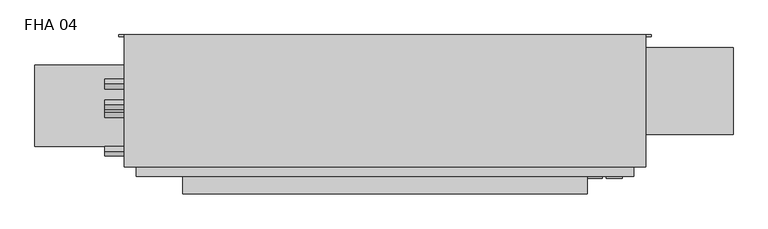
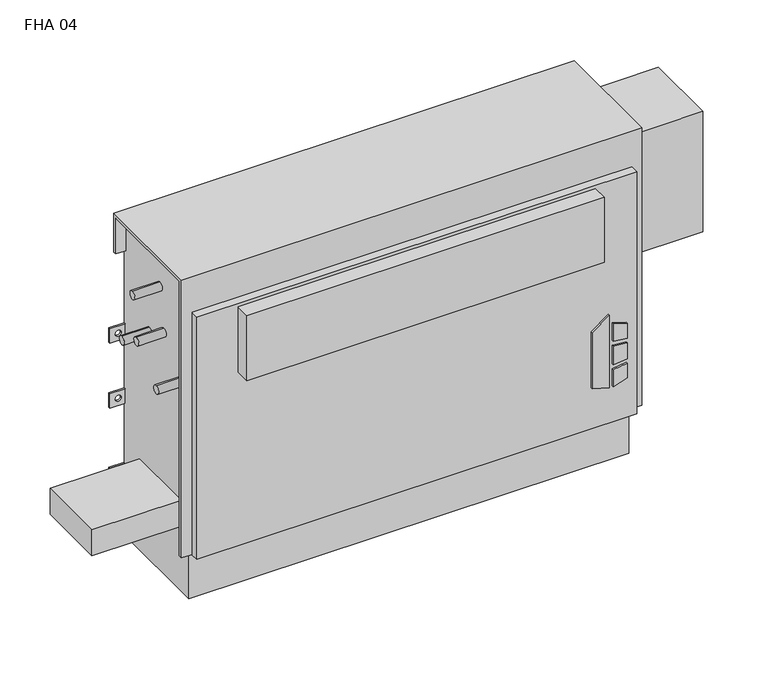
"""IFC4 building model written with IfcOpenShell, lengths in millimetres: proxy geometry, Vertical_Fan_Coil_Unit_-_FHA_-_IEC_-_4-Pipe_FS-FR_LH_2022 : FHA 04."""

from ifc_helpers import new_model, si_unit, point, frame, frame_2d, origin, place, context, project, spatial, polyline, circle_curve, trimmed, segment, composite_curve, outline, extrude, source, transform, mapped, element, save
from ifc_brep_helpers import plane_surface, revolved_surface, advanced_brep


def fha_04_1860a677(model_context):
    return source(origin(), model_context, "Body", "SolidModel", [
        extrude(outline(polyline([(172.5771459, 474.7368862), (162.6290756, 506.9102728), (304.8, 506.9102728), (281.7779939, 474.7368862), (172.5771459, 474.7368862)])), frame((0.0, 9.525, 0.0), z_axis=(0.0, 1.0, 0.0), x_axis=(0.0, 0.0, 1.0)), (0.0, 0.0, 1.0), 3.175),
        extrude(outline(polyline([(251.5764313, 513.6686058), (248.3740387, 539.75), (277.6028798, 539.75), (285.6672948, 513.6686058), (251.5764313, 513.6686058)])), frame((0.0, 9.525, 0.0), z_axis=(0.0, 1.0, 0.0), x_axis=(0.0, 0.0, 1.0)), (0.0, 0.0, 1.0), 3.175),
        extrude(outline(polyline([(199.7129044, 539.75), (196.0474034, 513.6686058), (162.6290756, 513.6686058), (171.2633128, 539.75), (199.7129044, 539.75)])), frame((0.0, 9.525, 0.0), z_axis=(0.0, 1.0, 0.0), x_axis=(0.0, 0.0, 1.0)), (0.0, 0.0, 1.0), 3.175),
        extrude(outline(polyline([(239.0280658, 539.75), (241.3098921, 513.6686058), (205.3723436, 513.6686058), (208.1136086, 539.75), (239.0280658, 539.75)])), frame((0.0, 9.525, 0.0), z_axis=(0.0, 1.0, 0.0), x_axis=(0.0, 0.0, 1.0)), (0.0, 0.0, 1.0), 3.175),
        extrude(outline(composite_curve([segment(trimmed(circle_curve(frame_2d((-317.5, 128.5875)), 9.525), [point((-327.025, 128.5875))], [point((-307.975, 128.5875))], False, "CARTESIAN"), True, "CONTINUOUS"), segment(trimmed(circle_curve(frame_2d((-317.5, 128.5875)), 9.525), [point((-307.975, 128.5875))], [point((-327.025, 128.5875))], False, "CARTESIAN"), True, "CONTINUOUS")], self_intersect=False)), frame((0.0, 0.0, 101.6), z_axis=(0.0, 0.0, 1.0), x_axis=(1.0, 0.0, 0.0)), (0.0, 0.0, 1.0), 25.4),
        extrude(outline(polyline([(-419.1, 61.9125), (-419.1, 195.2625), (-254.0, 195.2625), (-254.0, 61.9125), (-419.1, 61.9125)])), frame((0.0, 0.0, 127.0), z_axis=(0.0, 0.0, 1.0), x_axis=(1.0, 0.0, 0.0)), (0.0, 0.0, 1.0), 50.8),
        extrude(outline(polyline([(482.6, -15.875), (-177.8, -15.875), (-177.8, 12.7), (482.6, 12.7), (482.6, -15.875)])), frame((0.0, 0.0, 431.8), z_axis=(0.0, 0.0, 1.0), x_axis=(1.0, 0.0, 0.0)), (0.0, 0.0, 1.0), 127.0),
        extrude(outline(composite_curve([segment(trimmed(circle_curve(frame_2d((117.475, 472.44)), 7.9375), [point((117.475, 480.3775))], [point((117.475, 464.5025))], False, "CARTESIAN"), True, "CONTINUOUS"), segment(trimmed(circle_curve(frame_2d((117.475, 472.44)), 7.9375), [point((117.475, 464.5025))], [point((117.475, 480.3775))], False, "CARTESIAN"), True, "CONTINUOUS")], self_intersect=False)), frame((-304.8, 0.0, 0.0), z_axis=(1.0, 0.0, 0.0), x_axis=(0.0, 1.0, 0.0)), (0.0, 0.0, 1.0), 50.8),
        extrude(outline(composite_curve([segment(trimmed(circle_curve(frame_2d((164.0586, 445.897)), 7.9375), [point((164.0586, 453.8345))], [point((164.0586, 437.9595))], False, "CARTESIAN"), True, "CONTINUOUS"), segment(trimmed(circle_curve(frame_2d((164.0586, 445.897)), 7.9375), [point((164.0586, 437.9595))], [point((164.0586, 453.8345))], False, "CARTESIAN"), True, "CONTINUOUS")], self_intersect=False)), frame((-304.8, 0.0, 0.0), z_axis=(1.0, 0.0, 0.0), x_axis=(0.0, 1.0, 0.0)), (0.0, 0.0, 1.0), 50.8),
        extrude(outline(composite_curve([segment(trimmed(circle_curve(frame_2d((130.175, 554.99)), 7.9502), [point((130.175, 562.9402))], [point((130.175, 547.0398))], False, "CARTESIAN"), True, "CONTINUOUS"), segment(trimmed(circle_curve(frame_2d((130.175, 554.99)), 7.9502), [point((130.175, 547.0398))], [point((130.175, 562.9402))], False, "CARTESIAN"), True, "CONTINUOUS")], self_intersect=False)), frame((-304.8, 0.0, 0.0), z_axis=(1.0, 0.0, 0.0), x_axis=(0.0, 1.0, 0.0)), (0.0, 0.0, 1.0), 50.8),
        extrude(outline(composite_curve([segment(trimmed(circle_curve(frame_2d((53.975, 416.56)), 7.9502), [point((53.975, 424.5102))], [point((53.975, 408.6098))], False, "CARTESIAN"), True, "CONTINUOUS"), segment(trimmed(circle_curve(frame_2d((53.975, 416.56)), 7.9502), [point((53.975, 408.6098))], [point((53.975, 424.5102))], False, "CARTESIAN"), True, "CONTINUOUS")], self_intersect=False)), frame((-304.8, 0.0, 0.0), z_axis=(1.0, 0.0, 0.0), x_axis=(0.0, 1.0, 0.0)), (0.0, 0.0, 1.0), 50.8),
        extrude(outline(polyline([(720.725, 223.266), (720.725, 81.534), (558.8, 81.534), (558.8, 223.266), (720.725, 223.266)])), frame((0.0, 0.0, 349.25), z_axis=(0.0, 0.0, 1.0), x_axis=(1.0, 0.0, 0.0)), (0.0, 0.0, 1.0), 234.95),
        advanced_brep(
        [(577.85, 244.475, 635.0), (-273.05, 244.475, 635.0), (-273.05, 28.575, 635.0), (577.85, 28.575, 635.0), (-254.0, 244.475, 0.0), (558.8, 244.475, 0.0), (558.8, 38.1, 0.0), (-254.0, 38.1, 0.0), (577.85, 244.475, 558.8), (558.8, 244.475, 558.8), (558.8, 244.475, 414.3375), (587.375, 244.475, 414.3375), (587.375, 244.475, 385.7625), (558.8, 244.475, 385.7625), (558.8, 244.475, 287.3375), (587.375, 244.475, 287.3375), (587.375, 244.475, 258.7625), (558.8, 244.475, 258.7625), (558.8, 244.475, 141.2875), (587.375, 244.475, 141.2875), (587.375, 244.475, 112.7125), (558.8, 244.475, 112.7125), (-254.0, 244.475, 112.7125), (-282.575, 244.475, 112.7125), (-282.575, 244.475, 141.2875), (-254.0, 244.475, 141.2875), (-254.0, 244.475, 258.7625), (-282.575, 244.475, 258.7625), (-282.575, 244.475, 287.3375), (-254.0, 244.475, 287.3375), (-254.0, 244.475, 385.7625), (-282.575, 244.475, 385.7625), (-282.575, 244.475, 414.3375), (-254.0, 244.475, 414.3375), (-254.0, 244.475, 558.8), (-273.05, 244.475, 558.8), (577.0626, 244.475, 127.0), (565.9374, 244.475, 127.0), (-261.1374, 244.475, 127.0), (-272.2626, 244.475, 127.0), (577.0626, 244.475, 273.05), (565.9374, 244.475, 273.05), (-261.1374, 244.475, 273.05), (-272.2626, 244.475, 273.05), (577.0626, 244.475, 400.05), (565.9374, 244.475, 400.05), (-261.1374, 244.475, 400.05), (-272.2626, 244.475, 400.05), (-273.05, 238.125, 558.8), (-273.05, 238.125, 628.65), (-273.05, 34.925, 628.65), (-273.05, 34.925, 92.075), (-273.05, 28.575, 92.075), (558.8, 12.7, 565.15), (-254.0, 12.7, 565.15), (-254.0, 12.7, 92.075), (558.8, 12.7, 92.075), (577.85, 28.575, 92.075), (577.85, 34.925, 92.075), (577.85, 34.925, 628.65), (577.85, 238.125, 628.65), (577.85, 238.125, 558.8), (-254.0, 28.575, 92.075), (-254.0, 28.575, 565.15), (558.8, 28.575, 565.15), (558.8, 28.575, 92.075), (-254.0, 34.925, 92.075), (-254.0, 38.1, 92.075), (558.8, 38.1, 92.075), (558.8, 34.925, 92.075), (558.8, 241.3, 112.7125), (558.8, 241.3, 141.2875), (558.8, 241.3, 258.7625), (558.8, 241.3, 287.3375), (558.8, 241.3, 385.7625), (558.8, 241.3, 414.3375), (558.8, 238.125, 558.8), (558.8, 238.125, 628.65), (558.8, 34.925, 628.65), (-254.0, 34.925, 628.65), (-254.0, 238.125, 628.65), (-254.0, 238.125, 558.8), (-254.0, 241.3, 414.3375), (-254.0, 241.3, 385.7625), (-254.0, 241.3, 287.3375), (-254.0, 241.3, 258.7625), (-254.0, 241.3, 141.2875), (-254.0, 241.3, 112.7125), (587.375, 241.3, 112.7125), (587.375, 241.3, 141.2875), (565.9374, 241.3, 127.0), (577.0626, 241.3, 127.0), (587.375, 241.3, 258.7625), (587.375, 241.3, 287.3375), (565.9374, 241.3, 273.05), (577.0626, 241.3, 273.05), (587.375, 241.3, 385.7625), (587.375, 241.3, 414.3375), (565.9374, 241.3, 400.05), (577.0626, 241.3, 400.05), (-282.575, 241.3, 141.2875), (-282.575, 241.3, 112.7125), (-272.2626, 241.3, 127.0), (-261.1374, 241.3, 127.0), (-282.575, 241.3, 287.3375), (-282.575, 241.3, 258.7625), (-272.2626, 241.3, 273.05), (-261.1374, 241.3, 273.05), (-282.575, 241.3, 414.3375), (-282.575, 241.3, 385.7625), (-272.2626, 241.3, 400.05), (-261.1374, 241.3, 400.05)],
        [
            (0, 1),
            (1, 2),
            (2, 3),
            (3, 0),
            (4, 5),
            (5, 6),
            (6, 7),
            (7, 4),
            (0, 8),
            (8, 9),
            (9, 10),
            (10, 11),
            (11, 12),
            (12, 13),
            (13, 14),
            (14, 15),
            (15, 16),
            (16, 17),
            (17, 18),
            (18, 19),
            (19, 20),
            (20, 21),
            (21, 5),
            (4, 22),
            (22, 23),
            (23, 24),
            (24, 25),
            (25, 26),
            (26, 27),
            (27, 28),
            (28, 29),
            (29, 30),
            (30, 31),
            (31, 32),
            (32, 33),
            (33, 34),
            (34, 35),
            (35, 1),
            (36, 37, circle_curve(frame((571.5, 244.475, 127.0), z_axis=(0.0, -1.0, 0.0), x_axis=(-1.0, 0.0, 0.0)), 5.5626)),
            (37, 36, circle_curve(frame((571.5, 244.475, 127.0), z_axis=(0.0, -1.0, 0.0), x_axis=(-1.0, 0.0, 0.0)), 5.5626)),
            (38, 39, circle_curve(frame((-266.7, 244.475, 127.0), z_axis=(0.0, -1.0, 0.0), x_axis=(-1.0, 0.0, 0.0)), 5.5626)),
            (39, 38, circle_curve(frame((-266.7, 244.475, 127.0), z_axis=(0.0, -1.0, 0.0), x_axis=(-1.0, 0.0, 0.0)), 5.5626)),
            (40, 41, circle_curve(frame((571.5, 244.475, 273.05), z_axis=(0.0, -1.0, 0.0), x_axis=(-1.0, 0.0, 0.0)), 5.5626)),
            (41, 40, circle_curve(frame((571.5, 244.475, 273.05), z_axis=(0.0, -1.0, 0.0), x_axis=(-1.0, 0.0, 0.0)), 5.5626)),
            (42, 43, circle_curve(frame((-266.7, 244.475, 273.05), z_axis=(0.0, -1.0, 0.0), x_axis=(-1.0, 0.0, 0.0)), 5.5626)),
            (43, 42, circle_curve(frame((-266.7, 244.475, 273.05), z_axis=(0.0, -1.0, 0.0), x_axis=(-1.0, 0.0, 0.0)), 5.5626)),
            (44, 45, circle_curve(frame((571.5, 244.475, 400.05), z_axis=(0.0, -1.0, 0.0), x_axis=(-1.0, 0.0, 0.0)), 5.5626)),
            (45, 44, circle_curve(frame((571.5, 244.475, 400.05), z_axis=(0.0, -1.0, 0.0), x_axis=(-1.0, 0.0, 0.0)), 5.5626)),
            (46, 47, circle_curve(frame((-266.7, 244.475, 400.05), z_axis=(0.0, -1.0, 0.0), x_axis=(-1.0, 0.0, 0.0)), 5.5626)),
            (47, 46, circle_curve(frame((-266.7, 244.475, 400.05), z_axis=(0.0, -1.0, 0.0), x_axis=(-1.0, 0.0, 0.0)), 5.5626)),
            (35, 48),
            (48, 49),
            (49, 50),
            (50, 51),
            (51, 52),
            (52, 2),
            (53, 54),
            (54, 55),
            (55, 56),
            (56, 53),
            (3, 57),
            (57, 58),
            (58, 59),
            (59, 60),
            (60, 61),
            (61, 8),
            (52, 62),
            (62, 63),
            (63, 64),
            (64, 65),
            (65, 57),
            (53, 64),
            (63, 54),
            (55, 62),
            (51, 66),
            (66, 67),
            (67, 68),
            (68, 69),
            (69, 58),
            (65, 56),
            (6, 68),
            (67, 7),
            (21, 70),
            (70, 71),
            (71, 18),
            (17, 72),
            (72, 73),
            (73, 14),
            (13, 74),
            (74, 75),
            (75, 10),
            (9, 76),
            (76, 77),
            (77, 78),
            (78, 69),
            (66, 79),
            (79, 80),
            (80, 81),
            (81, 34),
            (33, 82),
            (82, 83),
            (83, 30),
            (29, 84),
            (84, 85),
            (85, 26),
            (25, 86),
            (86, 87),
            (87, 22),
            (76, 61),
            (60, 77),
            (78, 59),
            (50, 79),
            (81, 48),
            (80, 49),
            (70, 88),
            (88, 89),
            (89, 71),
            (90, 91, circle_curve(frame((571.5, 241.3, 127.0), z_axis=(0.0, 1.0, 0.0), x_axis=(-1.0, 0.0, 0.0)), 5.5626)),
            (91, 90, circle_curve(frame((571.5, 241.3, 127.0), z_axis=(0.0, 1.0, 0.0), x_axis=(-1.0, 0.0, 0.0)), 5.5626)),
            (92, 93),
            (93, 73),
            (72, 92),
            (94, 95, circle_curve(frame((571.5, 241.3, 273.05), z_axis=(0.0, 1.0, 0.0), x_axis=(-1.0, 0.0, 0.0)), 5.5626)),
            (95, 94, circle_curve(frame((571.5, 241.3, 273.05), z_axis=(0.0, 1.0, 0.0), x_axis=(-1.0, 0.0, 0.0)), 5.5626)),
            (96, 97),
            (97, 75),
            (74, 96),
            (98, 99, circle_curve(frame((571.5, 241.3, 400.05), z_axis=(0.0, 1.0, 0.0), x_axis=(-1.0, 0.0, 0.0)), 5.5626)),
            (99, 98, circle_curve(frame((571.5, 241.3, 400.05), z_axis=(0.0, 1.0, 0.0), x_axis=(-1.0, 0.0, 0.0)), 5.5626)),
            (100, 101),
            (101, 87),
            (86, 100),
            (102, 103, circle_curve(frame((-266.7, 241.3, 127.0), z_axis=(0.0, 1.0, 0.0), x_axis=(-1.0, 0.0, 0.0)), 5.5626)),
            (103, 102, circle_curve(frame((-266.7, 241.3, 127.0), z_axis=(0.0, 1.0, 0.0), x_axis=(-1.0, 0.0, 0.0)), 5.5626)),
            (84, 104),
            (104, 105),
            (105, 85),
            (106, 107, circle_curve(frame((-266.7, 241.3, 273.05), z_axis=(0.0, 1.0, 0.0), x_axis=(-1.0, 0.0, 0.0)), 5.5626)),
            (107, 106, circle_curve(frame((-266.7, 241.3, 273.05), z_axis=(0.0, 1.0, 0.0), x_axis=(-1.0, 0.0, 0.0)), 5.5626)),
            (108, 109),
            (109, 83),
            (82, 108),
            (110, 111, circle_curve(frame((-266.7, 241.3, 400.05), z_axis=(0.0, 1.0, 0.0), x_axis=(-1.0, 0.0, 0.0)), 5.5626)),
            (111, 110, circle_curve(frame((-266.7, 241.3, 400.05), z_axis=(0.0, 1.0, 0.0), x_axis=(-1.0, 0.0, 0.0)), 5.5626)),
            (89, 19),
            (88, 20),
            (16, 92),
            (93, 15),
            (12, 96),
            (97, 11),
            (24, 100),
            (101, 23),
            (105, 27),
            (104, 28),
            (32, 108),
            (109, 31),
            (90, 37),
            (36, 91),
            (102, 39),
            (38, 103),
            (94, 41),
            (40, 95),
            (106, 43),
            (42, 107),
            (98, 45),
            (44, 99),
            (110, 47),
            (46, 111),
        ],
        [
            plane_surface(frame((-273.05, 244.475, 635.0), z_axis=(0.0, 0.0, 1.0), x_axis=(-1.0, 0.0, 0.0))),
            plane_surface(frame((-273.05, 244.475, 0.0), z_axis=(0.0, 0.0, -1.0), x_axis=(1.0, 0.0, 0.0))),
            plane_surface(frame((577.85, 244.475, 635.0), z_axis=(0.0, 1.0, 0.0), x_axis=(0.0, 0.0, -1.0))),
            plane_surface(frame((-273.05, 244.475, 635.0), z_axis=(-1.0, 0.0, 0.0), x_axis=(0.0, 0.0, -1.0))),
            plane_surface(frame((-273.05, 12.7, 635.0), z_axis=(0.0, -1.0, 0.0), x_axis=(0.0, 0.0, -1.0))),
            plane_surface(frame((577.85, 12.7, 635.0), z_axis=(1.0, 0.0, 0.0), x_axis=(0.0, 0.0, -1.0))),
            plane_surface(frame((-400.05, 28.575, 635.0), z_axis=(0.0, -1.0, 0.0), x_axis=(1.0, 0.0, 0.0))),
            plane_surface(frame((-400.05, 28.575, 565.15), z_axis=(0.0, 0.0, 1.0), x_axis=(1.0, 0.0, 0.0))),
            plane_surface(frame((-273.05, 12.7, 92.075), z_axis=(0.0, 0.0, -1.0), x_axis=(1.0, 0.0, 0.0))),
            plane_surface(frame((-273.05, 38.1, 92.075), z_axis=(0.0, -1.0, 0.0), x_axis=(1.0, 0.0, 0.0))),
            plane_surface(frame((558.8, 28.575, 92.075), z_axis=(1.0, 0.0, 0.0), x_axis=(0.0, -1.0, 0.0))),
            plane_surface(frame((-254.0, 28.575, 565.15), z_axis=(-1.0, 0.0, 0.0), x_axis=(0.0, -1.0, 0.0))),
            plane_surface(frame((558.8, 244.475, 0.0), z_axis=(1.0, 0.0, 0.0), x_axis=(0.0, -1.0, 0.0))),
            plane_surface(frame((-254.0, 244.475, 92.075), z_axis=(-1.0, 0.0, 0.0), x_axis=(0.0, -1.0, 0.0))),
            plane_surface(frame((558.8, 238.125, 628.65), z_axis=(0.0, -1.0, 0.0), x_axis=(1.0, 0.0, 0.0))),
            plane_surface(frame((558.8, 238.125, 558.8), z_axis=(0.0, 0.0, -1.0), x_axis=(1.0, 0.0, 0.0))),
            plane_surface(frame((558.8, 34.925, 92.075), z_axis=(0.0, 1.0, 0.0), x_axis=(1.0, 0.0, 0.0))),
            plane_surface(frame((558.8, 34.925, 628.65), z_axis=(0.0, 0.0, -1.0), x_axis=(1.0, 0.0, 0.0))),
            plane_surface(frame((-254.0, 34.925, 628.65), z_axis=(0.0, 1.0, 0.0), x_axis=(-1.0, 0.0, 0.0))),
            plane_surface(frame((-254.0, 244.475, 558.8), z_axis=(0.0, 0.0, -1.0), x_axis=(-1.0, 0.0, 0.0))),
            plane_surface(frame((-254.0, 238.125, 558.8), z_axis=(0.0, -1.0, 0.0), x_axis=(-1.0, 0.0, 0.0))),
            plane_surface(frame((-254.0, 238.125, 628.65), z_axis=(0.0, 0.0, -1.0), x_axis=(-1.0, 0.0, 0.0))),
            plane_surface(frame((587.375, 241.3, 141.2875), z_axis=(0.0, -1.0, 0.0), x_axis=(-1.0, 0.0, 0.0))),
            plane_surface(frame((558.8, 244.475, 141.2875), z_axis=(0.0, 0.0, 1.0), x_axis=(0.0, -1.0, 0.0))),
            plane_surface(frame((587.375, 244.475, 141.2875), z_axis=(1.0, 0.0, 0.0), x_axis=(0.0, -1.0, 0.0))),
            plane_surface(frame((587.375, 244.475, 112.7125), z_axis=(0.0, 0.0, -1.0), x_axis=(0.0, -1.0, 0.0))),
            plane_surface(frame((587.375, 244.475, 258.7625), z_axis=(0.0, 0.0, -1.0), x_axis=(0.0, -1.0, 0.0))),
            plane_surface(frame((558.8, 244.475, 287.3375), z_axis=(0.0, 0.0, 1.0), x_axis=(0.0, -1.0, 0.0))),
            plane_surface(frame((587.375, 244.475, 287.3375), z_axis=(1.0, 0.0, 0.0), x_axis=(0.0, -1.0, 0.0))),
            plane_surface(frame((587.375, 244.475, 385.7625), z_axis=(0.0, 0.0, -1.0), x_axis=(0.0, -1.0, 0.0))),
            plane_surface(frame((558.8, 244.475, 414.3375), z_axis=(0.0, 0.0, 1.0), x_axis=(0.0, -1.0, 0.0))),
            plane_surface(frame((587.375, 244.475, 414.3375), z_axis=(1.0, 0.0, 0.0), x_axis=(0.0, -1.0, 0.0))),
            plane_surface(frame((-282.575, 244.475, 141.2875), z_axis=(0.0, 0.0, 1.0), x_axis=(0.0, -1.0, 0.0))),
            plane_surface(frame((-254.0, 244.475, 112.7125), z_axis=(0.0, 0.0, -1.0), x_axis=(0.0, -1.0, 0.0))),
            plane_surface(frame((-282.575, 244.475, 112.7125), z_axis=(-1.0, 0.0, 0.0), x_axis=(0.0, -1.0, 0.0))),
            plane_surface(frame((-254.0, 244.475, 258.7625), z_axis=(0.0, 0.0, -1.0), x_axis=(0.0, -1.0, 0.0))),
            plane_surface(frame((-282.575, 244.475, 258.7625), z_axis=(-1.0, 0.0, 0.0), x_axis=(0.0, -1.0, 0.0))),
            plane_surface(frame((-282.575, 244.475, 287.3375), z_axis=(0.0, 0.0, 1.0), x_axis=(0.0, -1.0, 0.0))),
            plane_surface(frame((-282.575, 244.475, 414.3375), z_axis=(0.0, 0.0, 1.0), x_axis=(0.0, -1.0, 0.0))),
            plane_surface(frame((-254.0, 244.475, 385.7625), z_axis=(0.0, 0.0, -1.0), x_axis=(0.0, -1.0, 0.0))),
            plane_surface(frame((-282.575, 244.475, 385.7625), z_axis=(-1.0, 0.0, 0.0), x_axis=(0.0, -1.0, 0.0))),
            revolved_surface(polyline([(565.9374, 241.3, 127.0), (565.9374, 244.475, 127.0)]), (571.5, 244.475, 127.0), (0.0, -1.0, 0.0)),
            revolved_surface(polyline([(-272.26259999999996, 241.3, 127.0), (-272.26259999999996, 244.475, 127.0)]), (-266.7, 244.475, 127.0), (0.0, -1.0, 0.0)),
            revolved_surface(polyline([(565.9374, 241.3, 273.05), (565.9374, 244.475, 273.05)]), (571.5, 244.475, 273.05), (0.0, -1.0, 0.0)),
            revolved_surface(polyline([(-272.26259999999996, 241.3, 273.05), (-272.26259999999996, 244.475, 273.05)]), (-266.7, 244.475, 273.05), (0.0, -1.0, 0.0)),
            revolved_surface(polyline([(565.9374, 241.3, 400.05), (565.9374, 244.475, 400.05)]), (571.5, 244.475, 400.05), (0.0, -1.0, 0.0)),
            revolved_surface(polyline([(-272.26259999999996, 241.3, 400.05), (-272.26259999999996, 244.475, 400.05)]), (-266.7, 244.475, 400.05), (0.0, -1.0, 0.0)),
        ],
        [
            (0, [[1, 2, 3, 4]]),
            (1, [[5, 6, 7, 8]]),
            (2, [[-1, 9, 10, 11, 12, 13, 14, 15, 16, 17, 18, 19, 20, 21, 22, 23, -5, 24, 25, 26, 27, 28, 29, 30, 31, 32, 33, 34, 35, 36, 37, 38], [39, 40], [41, 42], [43, 44], [45, 46], [47, 48], [49, 50]]),
            (3, [[-2, -38, 51, 52, 53, 54, 55, 56]]),
            (4, [[57, 58, 59, 60]]),
            (5, [[-4, 61, 62, 63, 64, 65, 66, -9]]),
            (6, [[-3, -56, 67, 68, 69, 70, 71, -61]]),
            (7, [[-57, 72, -69, 73]]),
            (8, [[-59, 74, -67, -55, 75, 76, 77, 78, 79, -62, -71, 80]]),
            (9, [[-7, 81, -77, 82]]),
            (10, [[-70, -72, -60, -80]]),
            (11, [[-68, -74, -58, -73]]),
            (12, [[-6, -23, 83, 84, 85, -19, 86, 87, 88, -15, 89, 90, 91, -11, 92, 93, 94, 95, -78, -81]]),
            (13, [[-8, -82, -76, 96, 97, 98, 99, -36, 100, 101, 102, -32, 103, 104, 105, -28, 106, 107, 108, -24]]),
            (14, [[-93, 109, -65, 110]]),
            (15, [[-92, -10, -66, -109]]),
            (16, [[-95, 111, -63, -79]]),
            (17, [[-94, -110, -64, -111]]),
            (18, [[-96, -75, -54, 112]]),
            (19, [[-99, 113, -51, -37]]),
            (20, [[-98, 114, -52, -113]]),
            (21, [[-97, -112, -53, -114]]),
            (22, [[115, 116, 117, -84], [118, 119]]),
            (22, [[120, 121, -87, 122], [123, 124]]),
            (22, [[125, 126, -90, 127], [128, 129]]),
            (22, [[130, 131, -107, 132], [133, 134]]),
            (22, [[135, 136, 137, -104], [138, 139]]),
            (22, [[140, 141, -101, 142], [143, 144]]),
            (23, [[-117, 145, -20, -85]]),
            (24, [[-116, 146, -21, -145]]),
            (25, [[-115, -83, -22, -146]]),
            (26, [[-122, -86, -18, 147]]),
            (27, [[-121, 148, -16, -88]]),
            (28, [[-120, -147, -17, -148]]),
            (29, [[-127, -89, -14, 149]]),
            (30, [[-126, 150, -12, -91]]),
            (31, [[-125, -149, -13, -150]]),
            (32, [[-132, -106, -27, 151]]),
            (33, [[-131, 152, -25, -108]]),
            (34, [[-130, -151, -26, -152]]),
            (35, [[-137, 153, -29, -105]]),
            (36, [[-136, 154, -30, -153]]),
            (37, [[-135, -103, -31, -154]]),
            (38, [[-142, -100, -35, 155]]),
            (39, [[-141, 156, -33, -102]]),
            (40, [[-140, -155, -34, -156]]),
            (41, [[157, -39, 158, -118]]),
            (41, [[-157, -119, -158, -40]]),
            (42, [[159, -41, 160, -133]]),
            (42, [[-159, -134, -160, -42]]),
            (43, [[161, -43, 162, -123]]),
            (43, [[-161, -124, -162, -44]]),
            (44, [[163, -45, 164, -138]]),
            (44, [[-163, -139, -164, -46]]),
            (45, [[165, -47, 166, -128]]),
            (45, [[-165, -129, -166, -48]]),
            (46, [[167, -49, 168, -143]]),
            (46, [[-167, -144, -168, -50]]),
        ],
    ),
    ])


if __name__ == "__main__":
    model = new_model("IFC4")
    model_context = context("Model", 3, world=origin())
    ifc_project = project(units=[si_unit("LENGTHUNIT", "METRE", prefix="MILLI")], contexts=[model_context])
    site = spatial("IfcSite", under=ifc_project)
    building = spatial("IfcBuilding", under=site)
    placement = place(None, origin())
    fha_04_shape = fha_04_1860a677(model_context)
    element("IfcBuildingElementProxy", 1, Name="Vertical_Fan_Coil_Unit_-_FHA_-_IEC_-_4-Pipe_FS-FR_LH_2022 : FHA 04", ObjectType="Vertical_Fan_Coil_Unit_-_FHA_-_IEC_-_4-Pipe_FS-FR_LH_2022 : FHA 04", at=placement, inside=building, context=model_context, shape_type="MappedRepresentation", body=[
        mapped(fha_04_shape, transform((0.0, 0.0, 0.0), x_axis=(1.0, 0.0, 0.0), y_axis=(0.0, 1.0, 0.0), z_axis=(0.0, 0.0, 1.0))),
    ])
    save(model, "model.ifc")
